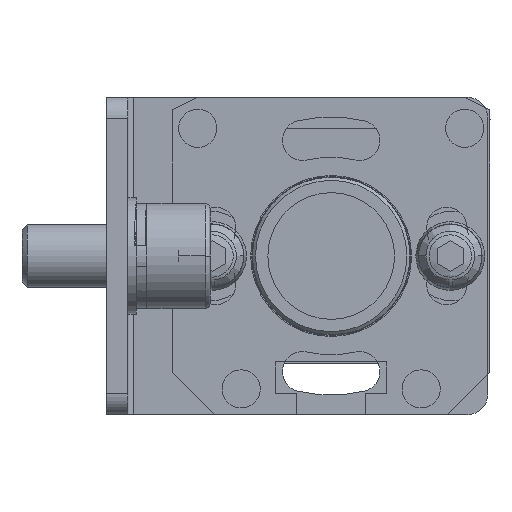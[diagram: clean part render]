
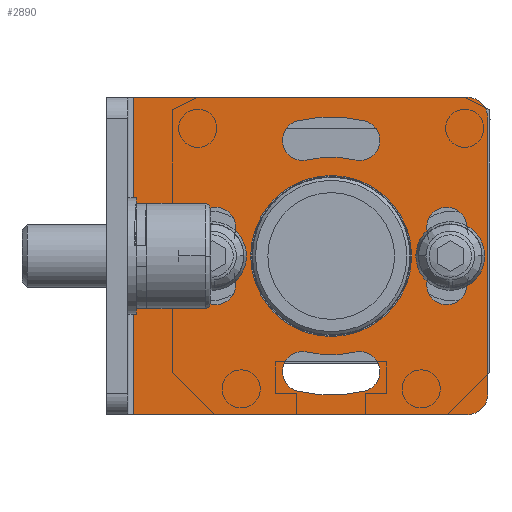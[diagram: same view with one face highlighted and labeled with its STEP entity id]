
A CAD part, front view. The second image highlights one B-rep face of the part: STEP entity #2890.
In plain terms, the highlighted planar face has unit normal (0, -1, 0).
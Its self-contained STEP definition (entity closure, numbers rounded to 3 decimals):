
#692=LINE('',#40684,#1452);
#697=LINE('',#40696,#1457);
#703=LINE('',#40712,#1463);
#707=LINE('',#40736,#1467);
#1452=VECTOR('',#13263,1.);
#1457=VECTOR('',#13272,1.);
#1463=VECTOR('',#13290,1.);
#1467=VECTOR('',#13320,1.);
#1962=PLANE('',#11082);
#2299=FACE_BOUND('',#4309,.T.);
#2300=FACE_BOUND('',#4310,.T.);
#2301=FACE_BOUND('',#4311,.T.);
#2302=FACE_BOUND('',#4312,.T.);
#2303=FACE_BOUND('',#4313,.T.);
#2304=FACE_BOUND('',#4314,.T.);
#2890=ADVANCED_FACE('',(#2299,#2300,#2301,#2302,#2303,#2304),#1962,.T.);
#4309=EDGE_LOOP('',(#6781,#6782,#6783,#6784));
#4310=EDGE_LOOP('',(#6785,#6786,#6787,#6788));
#4311=EDGE_LOOP('',(#6789,#6790,#6791,#6792));
#4312=EDGE_LOOP('',(#6793));
#4313=EDGE_LOOP('',(#6794,#6795,#6796,#6797));
#4314=EDGE_LOOP('',(#6798,#6799,#6800,#6801,#6802,#6803));
#6781=ORIENTED_EDGE('',*,*,#9603,.T.);
#6782=ORIENTED_EDGE('',*,*,#9604,.T.);
#6783=ORIENTED_EDGE('',*,*,#9542,.T.);
#6784=ORIENTED_EDGE('',*,*,#9605,.T.);
#6785=ORIENTED_EDGE('',*,*,#9606,.T.);
#6786=ORIENTED_EDGE('',*,*,#9546,.T.);
#6787=ORIENTED_EDGE('',*,*,#9607,.T.);
#6788=ORIENTED_EDGE('',*,*,#9550,.T.);
#6789=ORIENTED_EDGE('',*,*,#9608,.T.);
#6790=ORIENTED_EDGE('',*,*,#9554,.T.);
#6791=ORIENTED_EDGE('',*,*,#9609,.T.);
#6792=ORIENTED_EDGE('',*,*,#9558,.T.);
#6793=ORIENTED_EDGE('',*,*,#9563,.T.);
#6794=ORIENTED_EDGE('',*,*,#9610,.T.);
#6795=ORIENTED_EDGE('',*,*,#9611,.T.);
#6796=ORIENTED_EDGE('',*,*,#9612,.T.);
#6797=ORIENTED_EDGE('',*,*,#9564,.T.);
#6798=ORIENTED_EDGE('',*,*,#9613,.T.);
#6799=ORIENTED_EDGE('',*,*,#9614,.T.);
#6800=ORIENTED_EDGE('',*,*,#9598,.F.);
#6801=ORIENTED_EDGE('',*,*,#9584,.T.);
#6802=ORIENTED_EDGE('',*,*,#9590,.F.);
#6803=ORIENTED_EDGE('',*,*,#9615,.T.);
#8262=VERTEX_POINT('',#40594);
#8263=VERTEX_POINT('',#40595);
#8266=VERTEX_POINT('',#40603);
#8267=VERTEX_POINT('',#40604);
#8270=VERTEX_POINT('',#40612);
#8271=VERTEX_POINT('',#40613);
#8274=VERTEX_POINT('',#40621);
#8275=VERTEX_POINT('',#40622);
#8278=VERTEX_POINT('',#40630);
#8279=VERTEX_POINT('',#40631);
#8283=VERTEX_POINT('',#40641);
#8284=VERTEX_POINT('',#40644);
#8285=VERTEX_POINT('',#40645);
#8298=VERTEX_POINT('',#40681);
#8299=VERTEX_POINT('',#40683);
#8304=VERTEX_POINT('',#40695);
#8309=VERTEX_POINT('',#40713);
#8312=VERTEX_POINT('',#40723);
#8313=VERTEX_POINT('',#40724);
#8314=VERTEX_POINT('',#40732);
#8315=VERTEX_POINT('',#40734);
#8316=VERTEX_POINT('',#40737);
#8317=VERTEX_POINT('',#40738);
#9542=EDGE_CURVE('',#8262,#8263,#10244,.T.);
#9546=EDGE_CURVE('',#8266,#8267,#10246,.T.);
#9550=EDGE_CURVE('',#8270,#8271,#10248,.T.);
#9554=EDGE_CURVE('',#8274,#8275,#10250,.T.);
#9558=EDGE_CURVE('',#8278,#8279,#10252,.T.);
#9563=EDGE_CURVE('',#8283,#8283,#10255,.T.);
#9564=EDGE_CURVE('',#8284,#8285,#10256,.T.);
#9584=EDGE_CURVE('',#8298,#8299,#692,.T.);
#9590=EDGE_CURVE('',#8304,#8299,#697,.T.);
#9598=EDGE_CURVE('',#8298,#8309,#703,.T.);
#9603=EDGE_CURVE('',#8312,#8313,#10268,.T.);
#9604=EDGE_CURVE('',#8313,#8262,#10269,.T.);
#9605=EDGE_CURVE('',#8263,#8312,#10270,.T.);
#9606=EDGE_CURVE('',#8271,#8266,#10271,.T.);
#9607=EDGE_CURVE('',#8267,#8270,#10272,.T.);
#9608=EDGE_CURVE('',#8279,#8274,#10273,.T.);
#9609=EDGE_CURVE('',#8275,#8278,#10274,.T.);
#9610=EDGE_CURVE('',#8285,#8314,#10275,.T.);
#9611=EDGE_CURVE('',#8314,#8315,#10276,.T.);
#9612=EDGE_CURVE('',#8315,#8284,#10277,.T.);
#9613=EDGE_CURVE('',#8316,#8317,#707,.T.);
#9614=EDGE_CURVE('',#8317,#8309,#10278,.T.);
#9615=EDGE_CURVE('',#8304,#8316,#10279,.T.);
#10244=CIRCLE('',#11028,1.9);
#10246=CIRCLE('',#11031,13.15);
#10248=CIRCLE('',#11034,9.35);
#10250=CIRCLE('',#11037,1.9);
#10252=CIRCLE('',#11040,1.9);
#10255=CIRCLE('',#11044,7.6);
#10256=CIRCLE('',#11046,1.9);
#10268=CIRCLE('',#11070,1.9);
#10269=CIRCLE('',#11071,13.15);
#10270=CIRCLE('',#11072,9.35);
#10271=CIRCLE('',#11073,1.9);
#10272=CIRCLE('',#11074,1.9);
#10273=CIRCLE('',#11075,13.15);
#10274=CIRCLE('',#11076,9.35);
#10275=CIRCLE('',#11077,13.15);
#10276=CIRCLE('',#11078,1.9);
#10277=CIRCLE('',#11079,9.35);
#10278=CIRCLE('',#11080,2.);
#10279=CIRCLE('',#11081,2.);
#11028=AXIS2_PLACEMENT_3D('',#40593,#13179,#13180);
#11031=AXIS2_PLACEMENT_3D('',#40602,#13187,#13188);
#11034=AXIS2_PLACEMENT_3D('',#40611,#13195,#13196);
#11037=AXIS2_PLACEMENT_3D('',#40620,#13203,#13204);
#11040=AXIS2_PLACEMENT_3D('',#40629,#13211,#13212);
#11044=AXIS2_PLACEMENT_3D('',#40640,#13221,#13222);
#11046=AXIS2_PLACEMENT_3D('',#40643,#13225,#13226);
#11070=AXIS2_PLACEMENT_3D('',#40722,#13300,#13301);
#11071=AXIS2_PLACEMENT_3D('',#40725,#13302,#13303);
#11072=AXIS2_PLACEMENT_3D('',#40726,#13304,#13305);
#11073=AXIS2_PLACEMENT_3D('',#40727,#13306,#13307);
#11074=AXIS2_PLACEMENT_3D('',#40728,#13308,#13309);
#11075=AXIS2_PLACEMENT_3D('',#40729,#13310,#13311);
#11076=AXIS2_PLACEMENT_3D('',#40730,#13312,#13313);
#11077=AXIS2_PLACEMENT_3D('',#40731,#13314,#13315);
#11078=AXIS2_PLACEMENT_3D('',#40733,#13316,#13317);
#11079=AXIS2_PLACEMENT_3D('',#40735,#13318,#13319);
#11080=AXIS2_PLACEMENT_3D('',#40739,#13321,#13322);
#11081=AXIS2_PLACEMENT_3D('',#40740,#13323,#13324);
#11082=AXIS2_PLACEMENT_3D('',#40741,#13325,#13326);
#13179=DIRECTION('',(0.,1.,0.));
#13180=DIRECTION('',(0.,0.,1.));
#13187=DIRECTION('',(0.,1.,0.));
#13188=DIRECTION('',(0.,0.,1.));
#13195=DIRECTION('',(0.,-1.,0.));
#13196=DIRECTION('',(0.,0.,1.));
#13203=DIRECTION('',(0.,1.,0.));
#13204=DIRECTION('',(0.,0.,1.));
#13211=DIRECTION('',(0.,1.,0.));
#13212=DIRECTION('',(0.,0.,1.));
#13221=DIRECTION('',(0.,1.,0.));
#13222=DIRECTION('',(0.,0.,1.));
#13225=DIRECTION('',(0.,1.,0.));
#13226=DIRECTION('',(0.,0.,1.));
#13263=DIRECTION('',(0.,0.,-1.));
#13272=DIRECTION('',(-1.,0.,0.));
#13290=DIRECTION('',(1.,0.,0.));
#13300=DIRECTION('',(0.,1.,0.));
#13301=DIRECTION('',(0.,0.,1.));
#13302=DIRECTION('',(0.,1.,0.));
#13303=DIRECTION('',(0.,0.,1.));
#13304=DIRECTION('',(0.,-1.,0.));
#13305=DIRECTION('',(0.,0.,1.));
#13306=DIRECTION('',(0.,1.,0.));
#13307=DIRECTION('',(0.,0.,1.));
#13308=DIRECTION('',(0.,1.,0.));
#13309=DIRECTION('',(0.,0.,1.));
#13310=DIRECTION('',(0.,1.,0.));
#13311=DIRECTION('',(0.,0.,1.));
#13312=DIRECTION('',(0.,-1.,0.));
#13313=DIRECTION('',(0.,0.,1.));
#13314=DIRECTION('',(0.,1.,0.));
#13315=DIRECTION('',(0.,0.,1.));
#13316=DIRECTION('',(0.,1.,0.));
#13317=DIRECTION('',(0.,0.,1.));
#13318=DIRECTION('',(0.,-1.,0.));
#13319=DIRECTION('',(0.,0.,1.));
#13320=DIRECTION('',(0.,0.,1.));
#13321=DIRECTION('',(0.,-1.,0.));
#13322=DIRECTION('',(0.,0.,-1.));
#13323=DIRECTION('',(0.,-1.,0.));
#13324=DIRECTION('',(0.,0.,1.));
#13325=DIRECTION('',(0.,-1.,0.));
#13326=DIRECTION('',(1.,0.,0.));
#40593=CARTESIAN_POINT('',(-110.921,-298.,2.851));
#40594=CARTESIAN_POINT('',(-112.765,-298.,3.307));
#40595=CARTESIAN_POINT('',(-109.077,-298.,2.395));
#40602=CARTESIAN_POINT('',(-100.,-298.,0.15));
#40603=CARTESIAN_POINT('',(-103.157,-298.,12.915));
#40604=CARTESIAN_POINT('',(-96.843,-298.,12.915));
#40611=CARTESIAN_POINT('',(-100.,-298.,0.15));
#40612=CARTESIAN_POINT('',(-97.755,-298.,9.227));
#40613=CARTESIAN_POINT('',(-102.245,-298.,9.227));
#40620=CARTESIAN_POINT('',(-102.701,-298.,-10.771));
#40621=CARTESIAN_POINT('',(-103.157,-298.,-12.615));
#40622=CARTESIAN_POINT('',(-102.245,-298.,-8.927));
#40629=CARTESIAN_POINT('',(-97.299,-298.,-10.771));
#40630=CARTESIAN_POINT('',(-97.755,-298.,-8.927));
#40631=CARTESIAN_POINT('',(-96.843,-298.,-12.615));
#40640=CARTESIAN_POINT('',(-100.,-298.,0.15));
#40641=CARTESIAN_POINT('',(-100.,-298.,7.75));
#40643=CARTESIAN_POINT('',(-89.079,-298.,2.851));
#40644=CARTESIAN_POINT('',(-90.923,-298.,2.395));
#40645=CARTESIAN_POINT('',(-87.235,-298.,3.307));
#40681=CARTESIAN_POINT('',(-118.7,-298.,15.15));
#40683=CARTESIAN_POINT('',(-118.7,-298.,-14.85));
#40684=CARTESIAN_POINT('',(-118.7,-298.,15.15));
#40695=CARTESIAN_POINT('',(-87.2,-298.,-14.85));
#40696=CARTESIAN_POINT('',(-118.7,-298.,-14.85));
#40712=CARTESIAN_POINT('',(-118.7,-298.,15.15));
#40713=CARTESIAN_POINT('',(-87.2,-298.,15.15));
#40722=CARTESIAN_POINT('',(-110.921,-298.,-2.551));
#40723=CARTESIAN_POINT('',(-109.077,-298.,-2.095));
#40724=CARTESIAN_POINT('',(-112.765,-298.,-3.007));
#40725=CARTESIAN_POINT('',(-100.,-298.,0.15));
#40726=CARTESIAN_POINT('',(-100.,-298.,0.15));
#40727=CARTESIAN_POINT('',(-102.701,-298.,11.071));
#40728=CARTESIAN_POINT('',(-97.299,-298.,11.071));
#40729=CARTESIAN_POINT('',(-100.,-298.,0.15));
#40730=CARTESIAN_POINT('',(-100.,-298.,0.15));
#40731=CARTESIAN_POINT('',(-100.,-298.,0.15));
#40732=CARTESIAN_POINT('',(-87.235,-298.,-3.007));
#40733=CARTESIAN_POINT('',(-89.079,-298.,-2.551));
#40734=CARTESIAN_POINT('',(-90.923,-298.,-2.095));
#40735=CARTESIAN_POINT('',(-100.,-298.,0.15));
#40736=CARTESIAN_POINT('',(-85.2,-298.,15.15));
#40737=CARTESIAN_POINT('',(-85.2,-298.,-12.85));
#40738=CARTESIAN_POINT('',(-85.2,-298.,13.15));
#40739=CARTESIAN_POINT('',(-87.2,-298.,13.15));
#40740=CARTESIAN_POINT('',(-87.2,-298.,-12.85));
#40741=CARTESIAN_POINT('',(-85.2,-298.,15.15));
